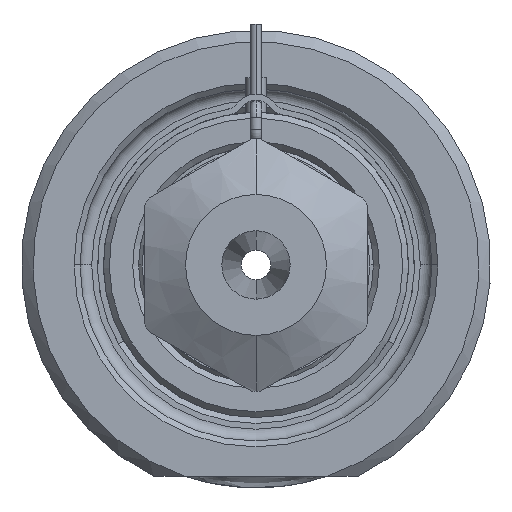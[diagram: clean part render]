
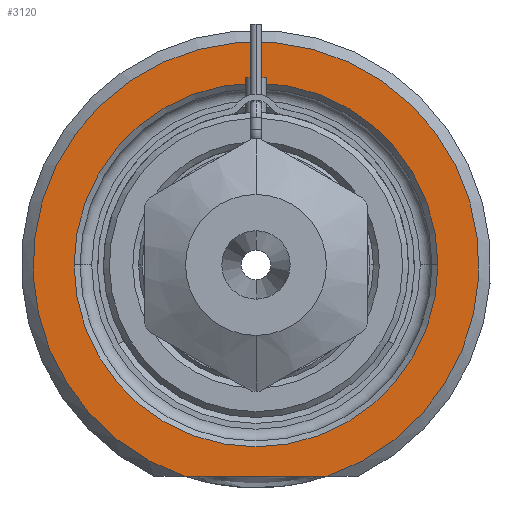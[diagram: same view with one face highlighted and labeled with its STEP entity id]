
A CAD part, front view. The second image highlights one B-rep face of the part: STEP entity #3120.
In plain terms, the highlighted planar face has unit normal (0, -1, 0).
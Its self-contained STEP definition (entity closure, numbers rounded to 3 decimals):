
#1=DIRECTION('',(1.,0.,0.));
#2=VECTOR('',#1,12.166);
#3=CARTESIAN_POINT('',(-6.083,0.,-18.));
#4=LINE('',#3,#2);
#5=CARTESIAN_POINT('',(0.,0.,0.));
#6=DIRECTION('',(0.,1.,0.));
#7=DIRECTION('',(-1.,0.,0.));
#8=AXIS2_PLACEMENT_3D('',#5,#6,#7);
#10=CARTESIAN_POINT('',(0.,0.,0.));
#11=DIRECTION('',(0.,1.,0.));
#12=DIRECTION('',(1.,0.,0.));
#13=AXIS2_PLACEMENT_3D('',#10,#11,#12);
#264=CARTESIAN_POINT('',(0.,0.,0.));
#265=DIRECTION('',(0.,-1.,0.));
#266=DIRECTION('',(0.32,0.,-0.947));
#267=AXIS2_PLACEMENT_3D('',#264,#265,#266);
#2617=CARTESIAN_POINT('',(-15.5,0.,0.));
#2618=CARTESIAN_POINT('',(15.5,0.,0.));
#2619=VERTEX_POINT('',#2617);
#2620=VERTEX_POINT('',#2618);
#2661=CARTESIAN_POINT('',(-6.083,0.,-18.));
#2662=CARTESIAN_POINT('',(6.083,0.,-18.));
#2663=VERTEX_POINT('',#2661);
#2664=VERTEX_POINT('',#2662);
#3103=CARTESIAN_POINT('',(0.,0.,0.));
#3104=DIRECTION('',(0.,-1.,0.));
#3105=DIRECTION('',(1.,0.,0.));
#3106=AXIS2_PLACEMENT_3D('',#3103,#3104,#3105);
#3107=PLANE('',#3106);
#3109=ORIENTED_EDGE('',*,*,#3108,.F.);
#3111=ORIENTED_EDGE('',*,*,#3110,.F.);
#3112=EDGE_LOOP('',(#3109,#3111));
#3113=FACE_OUTER_BOUND('',#3112,.F.);
#3115=ORIENTED_EDGE('',*,*,#3114,.F.);
#3117=ORIENTED_EDGE('',*,*,#3116,.F.);
#3118=EDGE_LOOP('',(#3115,#3117));
#3119=FACE_BOUND('',#3118,.F.);
#3120=ADVANCED_FACE('',(#3113,#3119),#3107,.T.);
#9=CIRCLE('',#8,15.5);
#14=CIRCLE('',#13,15.5);
#268=CIRCLE('',#267,19.);
#3108=EDGE_CURVE('',#2663,#2664,#4,.T.);
#3110=EDGE_CURVE('',#2664,#2663,#268,.T.);
#3114=EDGE_CURVE('',#2619,#2620,#9,.T.);
#3116=EDGE_CURVE('',#2620,#2619,#14,.T.);
